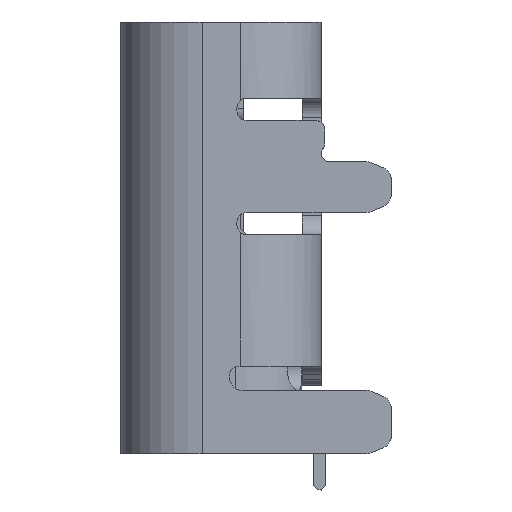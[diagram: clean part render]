
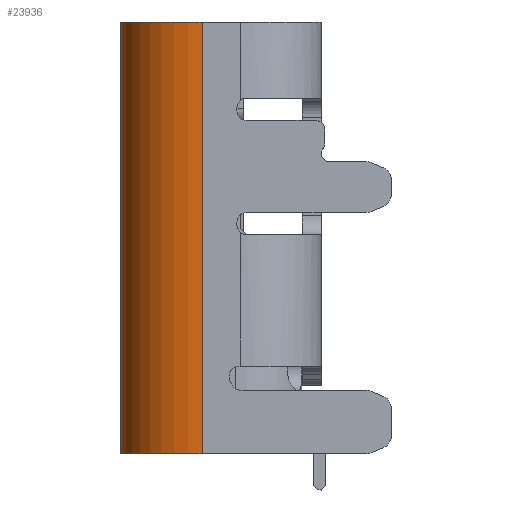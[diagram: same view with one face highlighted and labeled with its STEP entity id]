
A CAD part, left-side view. The second image highlights one B-rep face of the part: STEP entity #23936.
In plain terms, the highlighted cylindrical face has radius 1.28 mm (diameter 2.56 mm), a partial arc.
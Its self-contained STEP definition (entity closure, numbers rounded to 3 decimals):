
#127 = CARTESIAN_POINT ( 'NONE',  ( 38.542, -752.894, 0.3 ) ) ;
#1651 = DIRECTION ( 'NONE',  ( -1., 0., 0. ) ) ;
#1853 = DIRECTION ( 'NONE',  ( -1., 0., 0. ) ) ;
#4903 = DIRECTION ( 'NONE',  ( 0., 0., -1. ) ) ;
#5116 = ORIENTED_EDGE ( 'NONE', *, *, #9569, .F. ) ;
#5183 = CIRCLE ( 'NONE', #18174, 1.28 ) ;
#6750 = DIRECTION ( 'NONE',  ( -1., 0., 0. ) ) ;
#6858 = CARTESIAN_POINT ( 'NONE',  ( 37.262, -752.894, -6.5 ) ) ;
#7543 = CARTESIAN_POINT ( 'NONE',  ( 37.262, -752.894, 0.3 ) ) ;
#7572 = EDGE_CURVE ( 'NONE', #15037, #25554, #5183, .T. ) ;
#7693 = ORIENTED_EDGE ( 'NONE', *, *, #10748, .T. ) ;
#8221 = ORIENTED_EDGE ( 'NONE', *, *, #22559, .F. ) ;
#9569 = EDGE_CURVE ( 'NONE', #19383, #10511, #12390, .T. ) ;
#9901 = DIRECTION ( 'NONE',  ( 0., 0., 1. ) ) ;
#10297 = CYLINDRICAL_SURFACE ( 'NONE', #12935, 1.28 ) ;
#10511 = VERTEX_POINT ( 'NONE', #7543 ) ;
#10748 = EDGE_CURVE ( 'NONE', #25554, #10511, #19855, .T. ) ;
#11711 = DIRECTION ( 'NONE',  ( 0., 0., 1. ) ) ;
#12390 = CIRCLE ( 'NONE', #22847, 1.28 ) ;
#12793 = CARTESIAN_POINT ( 'NONE',  ( 38.542, -751.614, 0. ) ) ;
#12935 = AXIS2_PLACEMENT_3D ( 'NONE', #18287, #4903, #6750 ) ;
#13607 = VECTOR ( 'NONE', #9901, 1000. ) ;
#14175 = VECTOR ( 'NONE', #24480, 1000. ) ;
#15037 = VERTEX_POINT ( 'NONE', #16388 ) ;
#15304 = DIRECTION ( 'NONE',  ( 0., 0., 1. ) ) ;
#16388 = CARTESIAN_POINT ( 'NONE',  ( 38.542, -751.614, -6.5 ) ) ;
#16730 = LINE ( 'NONE', #12793, #14175 ) ;
#17082 = ORIENTED_EDGE ( 'NONE', *, *, #7572, .T. ) ;
#18174 = AXIS2_PLACEMENT_3D ( 'NONE', #23561, #15304, #1651 ) ;
#18287 = CARTESIAN_POINT ( 'NONE',  ( 38.542, -752.894, 0. ) ) ;
#19331 = CARTESIAN_POINT ( 'NONE',  ( 37.262, -752.894, 0. ) ) ;
#19383 = VERTEX_POINT ( 'NONE', #23951 ) ;
#19855 = LINE ( 'NONE', #19331, #13607 ) ;
#20252 = FACE_OUTER_BOUND ( 'NONE', #21706, .T. ) ;
#21706 = EDGE_LOOP ( 'NONE', ( #8221, #17082, #7693, #5116 ) ) ;
#22559 = EDGE_CURVE ( 'NONE', #15037, #19383, #16730, .T. ) ;
#22847 = AXIS2_PLACEMENT_3D ( 'NONE', #127, #11711, #1853 ) ;
#23561 = CARTESIAN_POINT ( 'NONE',  ( 38.542, -752.894, -6.5 ) ) ;
#23936 = ADVANCED_FACE ( 'NONE', ( #20252 ), #10297, .T. ) ;
#23951 = CARTESIAN_POINT ( 'NONE',  ( 38.542, -751.614, 0.3 ) ) ;
#24480 = DIRECTION ( 'NONE',  ( 0., 0., 1. ) ) ;
#25554 = VERTEX_POINT ( 'NONE', #6858 ) ;
